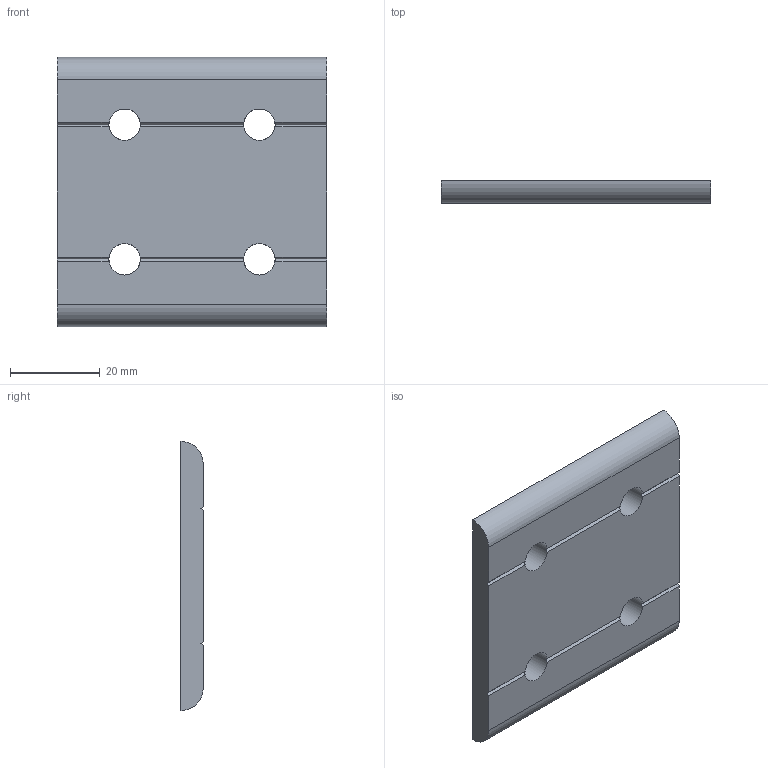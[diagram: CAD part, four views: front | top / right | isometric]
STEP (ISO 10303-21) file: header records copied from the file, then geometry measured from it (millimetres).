
FILE_DESCRIPTION(/* description */ ('Unknown'),/* implementation_level */ '2;1');
FILE_NAME(/* name */ 'AI6060-H',/* time_stamp */ '2026-09-17T11:46:30+08:00',/* author */ ('Unknown'),/* organization */ ('Unknown'),/* preprocessor_version */ 'ST-DEVELOPER v16.7',/* originating_system */ 'DEX',/* authorisation */ $);
FILE_SCHEMA (('AUTOMOTIVE_DESIGN {1 0 10303 214 3 1 1}'));
Length unit declared in the file: millimetre
Products named in the file (1): AI6060-H
Bounding box: 60 x 5 x 60 mm (x, y, z)
Volume: 16563.5 mm3; surface area: 8288.1 mm2
Topology: 1 solids, 1 shells, 24 faces, 78 edges, 52 vertices
Faces by surface type: plane 18, cylinder 6
Full cylindrical faces by diameter (mm): 7 x4
Entity records: 1026 total; most frequent: DIRECTION 152, CARTESIAN_POINT 143, ORIENTED_EDGE 140, EDGE_CURVE 70, AXIS2_PLACEMENT_3D 57, VERTEX_POINT 48, LINE 38, VECTOR 38
